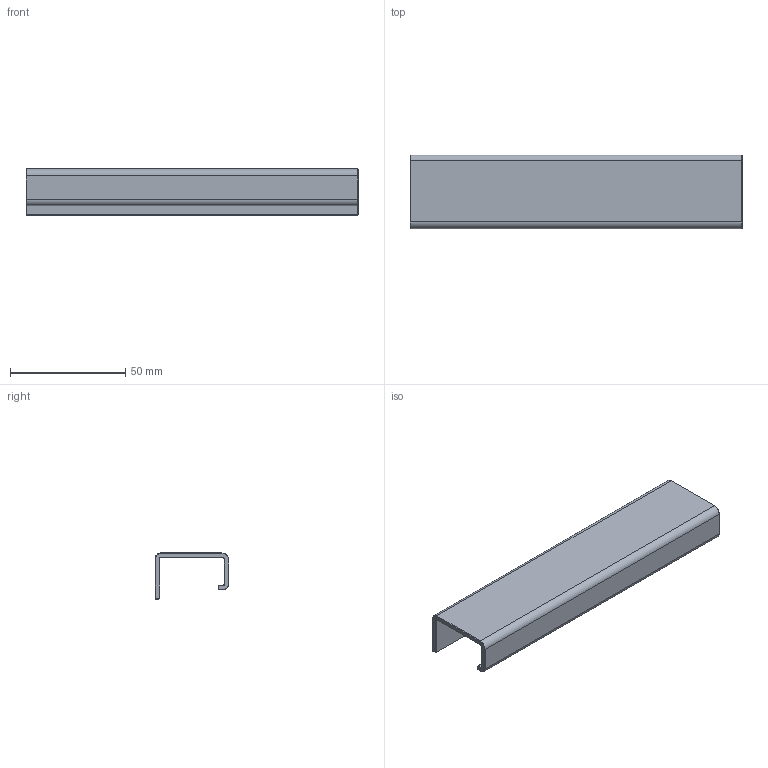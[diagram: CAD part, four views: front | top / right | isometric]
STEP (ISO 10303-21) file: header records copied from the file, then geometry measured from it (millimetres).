
FILE_DESCRIPTION(('Open CASCADE Model'),'2;1');
FILE_NAME('FL-LIP-144','2026-10-19T21:24:01',('Author'),('Open CASCADE') ,'Open CASCADE STEP processor 8.0','build123d','Unknown');
FILE_SCHEMA(('AUTOMOTIVE_DESIGN { 1 0 10303 214 1 1 1 1 }'));
Length unit declared in the file: millimetre
Products named in the file (2): FL-LIP-144; brass_FL-LIP144-18__e
Assembly tree (1 placements, depth 2):
  FL-LIP-144
    brass_FL-LIP144-18__e
Bounding box: 144 x 32 x 20 mm (x, y, z)
Volume: 18432.9 mm3; surface area: 19217.6 mm2
Topology: 1 solids, 1 shells, 64 faces, 146 edges, 84 vertices
Faces by surface type: plane 32, cone 20, cylinder 12
Full cylindrical faces by diameter (mm): 4.5 x2
Entity records: 3656 total; most frequent: CARTESIAN_POINT 764, DIRECTION 518, ORIENTED_EDGE 292, PCURVE 292, DEFINITIONAL_REPRESENTATION 292, LINE 290, VECTOR 290, EDGE_CURVE 146
